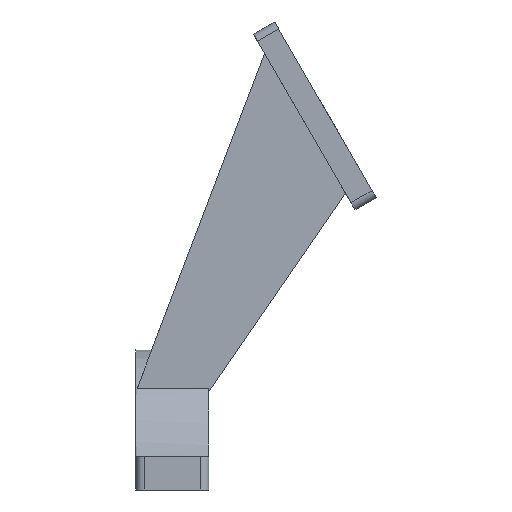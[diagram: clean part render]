
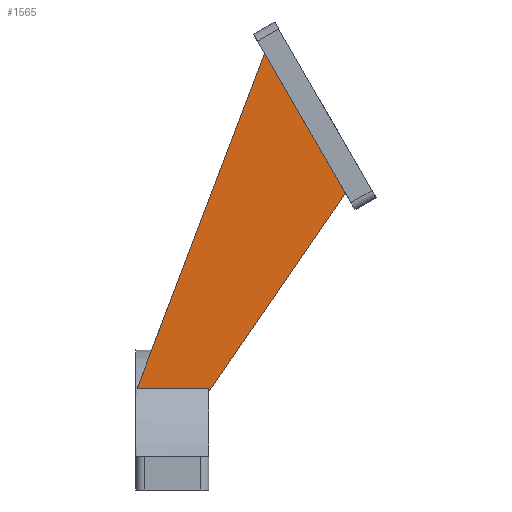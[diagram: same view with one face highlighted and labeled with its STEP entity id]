
A CAD part, front view. The second image highlights one B-rep face of the part: STEP entity #1565.
In plain terms, the highlighted planar face has unit normal (0, -1, 0).
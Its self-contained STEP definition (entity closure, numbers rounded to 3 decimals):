
#33 = CYLINDRICAL_SURFACE('',#34,35.3);
#34 = AXIS2_PLACEMENT_3D('',#35,#36,#37);
#35 = CARTESIAN_POINT('',(-54.,0.,0.));
#36 = DIRECTION('',(-1.,-0.,-0.));
#37 = DIRECTION('',(0.,1.,0.));
#307 = PLANE('',#308);
#308 = AXIS2_PLACEMENT_3D('',#309,#310,#311);
#309 = CARTESIAN_POINT('',(-36.,0.,0.)
  );
#310 = DIRECTION('',(1.,0.,0.));
#311 = DIRECTION('',(-0.,0.,1.));
#454 = VERTEX_POINT('',#455);
#455 = CARTESIAN_POINT('',(-53.663,-24.,25.886));
#473 = PLANE('',#474);
#474 = AXIS2_PLACEMENT_3D('',#475,#476,#477);
#475 = CARTESIAN_POINT('',(-22.048,-20.,109.071));
#476 = DIRECTION('',(0.935,0.,-0.355));
#477 = DIRECTION('',(-0.355,0.,-0.935));
#485 = EDGE_CURVE('',#486,#454,#488,.T.);
#486 = VERTEX_POINT('',#487);
#487 = CARTESIAN_POINT('',(-36.,-24.,25.886));
#488 = SURFACE_CURVE('',#489,(#493,#499),.PCURVE_S1.);
#489 = LINE('',#490,#491);
#490 = CARTESIAN_POINT('',(-54.,-24.,25.886));
#491 = VECTOR('',#492,1.);
#492 = DIRECTION('',(-1.,-0.,-0.));
#493 = PCURVE('',#33,#494);
#494 = DEFINITIONAL_REPRESENTATION('',(#495),#498);
#495 = B_SPLINE_CURVE_WITH_KNOTS('',1,(#496,#497),.UNSPECIFIED.,.F.,.F.,
  (2,2),(-18.,0.),.PIECEWISE_BEZIER_KNOTS.);
#496 = CARTESIAN_POINT('',(-2.318,-18.));
#497 = CARTESIAN_POINT('',(-2.318,0.));
#498 = ( GEOMETRIC_REPRESENTATION_CONTEXT(2) 
PARAMETRIC_REPRESENTATION_CONTEXT() REPRESENTATION_CONTEXT('2D SPACE',''
  ) );
#499 = PCURVE('',#500,#505);
#500 = PLANE('',#501);
#501 = AXIS2_PLACEMENT_3D('',#502,#503,#504);
#502 = CARTESIAN_POINT('',(-28.15,-24.,63.155));
#503 = DIRECTION('',(-0.,-1.,-0.));
#504 = DIRECTION('',(0.,0.,-1.));
#505 = DEFINITIONAL_REPRESENTATION('',(#506),#509);
#506 = B_SPLINE_CURVE_WITH_KNOTS('',1,(#507,#508),.UNSPECIFIED.,.F.,.F.,
  (2,2),(-18.,0.),.PIECEWISE_BEZIER_KNOTS.);
#507 = CARTESIAN_POINT('',(37.269,-7.85));
#508 = CARTESIAN_POINT('',(37.269,-25.85));
#509 = ( GEOMETRIC_REPRESENTATION_CONTEXT(2) 
PARAMETRIC_REPRESENTATION_CONTEXT() REPRESENTATION_CONTEXT('2D SPACE',''
  ) );
#1496 = VERTEX_POINT('',#1497);
#1497 = CARTESIAN_POINT('',(-36.,-24.,25.));
#1511 = PLANE('',#1512);
#1512 = AXIS2_PLACEMENT_3D('',#1513,#1514,#1515);
#1513 = CARTESIAN_POINT('',(-36.,-20.,25.));
#1514 = DIRECTION('',(-0.824,0.,0.566));
#1515 = DIRECTION('',(0.566,0.,0.824));
#1523 = EDGE_CURVE('',#486,#1496,#1524,.T.);
#1524 = SURFACE_CURVE('',#1525,(#1529,#1535),.PCURVE_S1.);
#1525 = LINE('',#1526,#1527);
#1526 = CARTESIAN_POINT('',(-36.,-24.,31.578));
#1527 = VECTOR('',#1528,1.);
#1528 = DIRECTION('',(0.,0.,-1.));
#1529 = PCURVE('',#307,#1530);
#1530 = DEFINITIONAL_REPRESENTATION('',(#1531),#1534);
#1531 = B_SPLINE_CURVE_WITH_KNOTS('',1,(#1532,#1533),.UNSPECIFIED.,.F.,
  .F.,(2,2),(-3.722,6.578),.PIECEWISE_BEZIER_KNOTS.);
#1532 = CARTESIAN_POINT('',(35.3,24.));
#1533 = CARTESIAN_POINT('',(25.,24.));
#1534 = ( GEOMETRIC_REPRESENTATION_CONTEXT(2) 
PARAMETRIC_REPRESENTATION_CONTEXT() REPRESENTATION_CONTEXT('2D SPACE',''
  ) );
#1535 = PCURVE('',#500,#1536);
#1536 = DEFINITIONAL_REPRESENTATION('',(#1537),#1540);
#1537 = B_SPLINE_CURVE_WITH_KNOTS('',1,(#1538,#1539),.UNSPECIFIED.,.F.,
  .F.,(2,2),(-3.722,6.578),.PIECEWISE_BEZIER_KNOTS.);
#1538 = CARTESIAN_POINT('',(27.855,-7.85));
#1539 = CARTESIAN_POINT('',(38.155,-7.85));
#1540 = ( GEOMETRIC_REPRESENTATION_CONTEXT(2) 
PARAMETRIC_REPRESENTATION_CONTEXT() REPRESENTATION_CONTEXT('2D SPACE',''
  ) );
#1565 = ADVANCED_FACE('',(#1566),#500,.T.);
#1566 = FACE_BOUND('',#1567,.T.);
#1567 = EDGE_LOOP('',(#1568,#1569,#1592,#1618,#1639));
#1568 = ORIENTED_EDGE('',*,*,#1523,.T.);
#1569 = ORIENTED_EDGE('',*,*,#1570,.T.);
#1570 = EDGE_CURVE('',#1496,#1571,#1573,.T.);
#1571 = VERTEX_POINT('',#1572);
#1572 = CARTESIAN_POINT('',(-2.361,-24.,73.973));
#1573 = SURFACE_CURVE('',#1574,(#1578,#1585),.PCURVE_S1.);
#1574 = LINE('',#1575,#1576);
#1575 = CARTESIAN_POINT('',(-36.,-24.,25.));
#1576 = VECTOR('',#1577,1.);
#1577 = DIRECTION('',(0.566,0.,0.824));
#1578 = PCURVE('',#500,#1579);
#1579 = DEFINITIONAL_REPRESENTATION('',(#1580),#1584);
#1580 = LINE('',#1581,#1582);
#1581 = CARTESIAN_POINT('',(38.155,-7.85));
#1582 = VECTOR('',#1583,1.);
#1583 = DIRECTION('',(-0.824,0.566));
#1584 = ( GEOMETRIC_REPRESENTATION_CONTEXT(2) 
PARAMETRIC_REPRESENTATION_CONTEXT() REPRESENTATION_CONTEXT('2D SPACE',''
  ) );
#1585 = PCURVE('',#1511,#1586);
#1586 = DEFINITIONAL_REPRESENTATION('',(#1587),#1591);
#1587 = LINE('',#1588,#1589);
#1588 = CARTESIAN_POINT('',(0.,-4.));
#1589 = VECTOR('',#1590,1.);
#1590 = DIRECTION('',(1.,0.));
#1591 = ( GEOMETRIC_REPRESENTATION_CONTEXT(2) 
PARAMETRIC_REPRESENTATION_CONTEXT() REPRESENTATION_CONTEXT('2D SPACE',''
  ) );
#1592 = ORIENTED_EDGE('',*,*,#1593,.F.);
#1593 = EDGE_CURVE('',#1594,#1571,#1596,.T.);
#1594 = VERTEX_POINT('',#1595);
#1595 = CARTESIAN_POINT('',(-22.277,-24.,108.467));
#1596 = SURFACE_CURVE('',#1597,(#1601,#1607),.PCURVE_S1.);
#1597 = LINE('',#1598,#1599);
#1598 = CARTESIAN_POINT('',(-14.553,-24.,95.088));
#1599 = VECTOR('',#1600,1.);
#1600 = DIRECTION('',(0.5,0.,-0.866));
#1601 = PCURVE('',#500,#1602);
#1602 = DEFINITIONAL_REPRESENTATION('',(#1603),#1606);
#1603 = B_SPLINE_CURVE_WITH_KNOTS('',1,(#1604,#1605),.UNSPECIFIED.,.F.,
  .F.,(2,2),(-16.145,25.01),.PIECEWISE_BEZIER_KNOTS.);
#1604 = CARTESIAN_POINT('',(-45.915,5.525));
#1605 = CARTESIAN_POINT('',(-10.274,26.102));
#1606 = ( GEOMETRIC_REPRESENTATION_CONTEXT(2) 
PARAMETRIC_REPRESENTATION_CONTEXT() REPRESENTATION_CONTEXT('2D SPACE',''
  ) );
#1607 = PCURVE('',#1608,#1613);
#1608 = PLANE('',#1609);
#1609 = AXIS2_PLACEMENT_3D('',#1610,#1611,#1612);
#1610 = CARTESIAN_POINT('',(-24.981,-27.,113.151));
#1611 = DIRECTION('',(0.866,0.,0.5));
#1612 = DIRECTION('',(0.5,0.,-0.866));
#1613 = DEFINITIONAL_REPRESENTATION('',(#1614),#1617);
#1614 = B_SPLINE_CURVE_WITH_KNOTS('',1,(#1615,#1616),.UNSPECIFIED.,.F.,
  .F.,(2,2),(-16.145,25.01),.PIECEWISE_BEZIER_KNOTS.);
#1615 = CARTESIAN_POINT('',(4.711,3.));
#1616 = CARTESIAN_POINT('',(45.866,3.));
#1617 = ( GEOMETRIC_REPRESENTATION_CONTEXT(2) 
PARAMETRIC_REPRESENTATION_CONTEXT() REPRESENTATION_CONTEXT('2D SPACE',''
  ) );
#1618 = ORIENTED_EDGE('',*,*,#1619,.T.);
#1619 = EDGE_CURVE('',#1594,#454,#1620,.T.);
#1620 = SURFACE_CURVE('',#1621,(#1625,#1632),.PCURVE_S1.);
#1621 = LINE('',#1622,#1623);
#1622 = CARTESIAN_POINT('',(-22.048,-24.,109.071));
#1623 = VECTOR('',#1624,1.);
#1624 = DIRECTION('',(-0.355,0.,-0.935));
#1625 = PCURVE('',#500,#1626);
#1626 = DEFINITIONAL_REPRESENTATION('',(#1627),#1631);
#1627 = LINE('',#1628,#1629);
#1628 = CARTESIAN_POINT('',(-45.915,6.102));
#1629 = VECTOR('',#1630,1.);
#1630 = DIRECTION('',(0.935,-0.355));
#1631 = ( GEOMETRIC_REPRESENTATION_CONTEXT(2) 
PARAMETRIC_REPRESENTATION_CONTEXT() REPRESENTATION_CONTEXT('2D SPACE',''
  ) );
#1632 = PCURVE('',#473,#1633);
#1633 = DEFINITIONAL_REPRESENTATION('',(#1634),#1638);
#1634 = LINE('',#1635,#1636);
#1635 = CARTESIAN_POINT('',(-0.,-4.));
#1636 = VECTOR('',#1637,1.);
#1637 = DIRECTION('',(1.,0.));
#1638 = ( GEOMETRIC_REPRESENTATION_CONTEXT(2) 
PARAMETRIC_REPRESENTATION_CONTEXT() REPRESENTATION_CONTEXT('2D SPACE',''
  ) );
#1639 = ORIENTED_EDGE('',*,*,#485,.F.);
